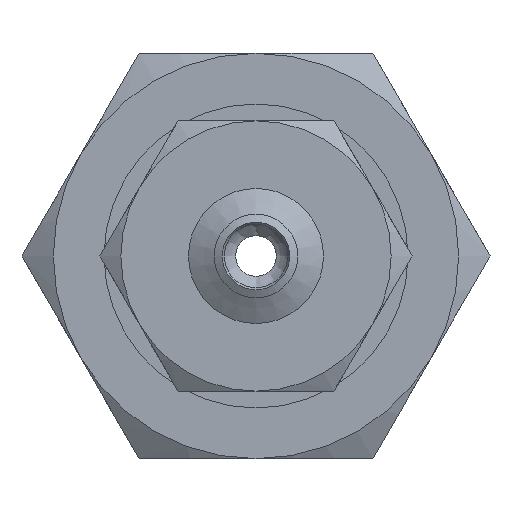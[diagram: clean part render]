
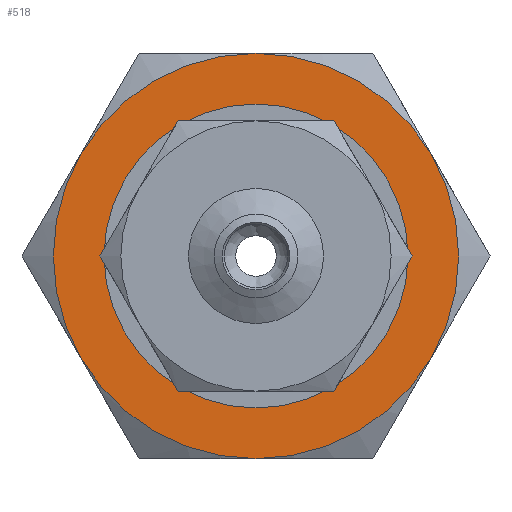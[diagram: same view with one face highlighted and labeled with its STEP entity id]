
A CAD part, front view. The second image highlights one B-rep face of the part: STEP entity #518.
In plain terms, the highlighted planar face has unit normal (0, -1, 0) as drawn and (-1, 0, 0) by its records, which use the part's own axes.
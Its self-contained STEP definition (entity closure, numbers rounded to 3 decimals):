
#518=ADVANCED_FACE('',(#748,#749),#750,.F.);
#748=FACE_BOUND('',#1113,.T.);
#749=FACE_OUTER_BOUND('',#1114,.T.);
#750=PLANE('',#1115);
#1113=EDGE_LOOP('',(#2015));
#1114=EDGE_LOOP('',(#2016,#2017,#2018,#2019,#2020,#2021));
#1115=AXIS2_PLACEMENT_3D('',#2022,#2023,#2024);
#2015=ORIENTED_EDGE('',*,*,#2666,.T.);
#2016=ORIENTED_EDGE('',*,*,#2667,.F.);
#2017=ORIENTED_EDGE('',*,*,#2648,.F.);
#2018=ORIENTED_EDGE('',*,*,#2646,.F.);
#2019=ORIENTED_EDGE('',*,*,#2634,.F.);
#2020=ORIENTED_EDGE('',*,*,#2633,.F.);
#2021=ORIENTED_EDGE('',*,*,#2665,.F.);
#2022=CARTESIAN_POINT('',(0.,0.0,0.0));
#2023=DIRECTION('',(1.0,0.0,0.0));
#2024=DIRECTION('',(0.0,1.0,0.0));
#2633=EDGE_CURVE('',#2960,#2963,#2965,.T.);
#2634=EDGE_CURVE('',#2963,#2966,#2967,.T.);
#2646=EDGE_CURVE('',#2966,#2983,#2986,.T.);
#2648=EDGE_CURVE('',#2983,#2988,#2989,.T.);
#2665=EDGE_CURVE('',#3009,#2960,#3014,.T.);
#2666=EDGE_CURVE('',#3015,#3015,#3016,.T.);
#2667=EDGE_CURVE('',#2988,#3009,#3017,.T.);
#2960=VERTEX_POINT('',#3536);
#2963=VERTEX_POINT('',#3559);
#2965=CIRCLE('',#3571,6.0);
#2966=VERTEX_POINT('',#3572);
#2967=CIRCLE('',#3573,6.0);
#2983=VERTEX_POINT('',#3642);
#2986=CIRCLE('',#3665,6.0);
#2988=VERTEX_POINT('',#3677);
#2989=CIRCLE('',#3678,6.0);
#3009=VERTEX_POINT('',#3759);
#3014=CIRCLE('',#3784,6.0);
#3015=VERTEX_POINT('',#3785);
#3016=CIRCLE('',#3786,4.0);
#3017=CIRCLE('',#3787,6.0);
#3536=CARTESIAN_POINT('',(0.,0.0,6.0));
#3559=CARTESIAN_POINT('',(0.,-5.196,3.0));
#3571=AXIS2_PLACEMENT_3D('',#4427,#4428,#4429);
#3572=CARTESIAN_POINT('',(0.,-5.196,-3.0));
#3573=AXIS2_PLACEMENT_3D('',#4430,#4431,#4432);
#3642=CARTESIAN_POINT('',(0.,0.0,-6.0));
#3665=AXIS2_PLACEMENT_3D('',#4439,#4440,#4441);
#3677=CARTESIAN_POINT('',(0.,5.196,-3.0));
#3678=AXIS2_PLACEMENT_3D('',#4442,#4443,#4444);
#3759=CARTESIAN_POINT('',(0.,5.196,3.0));
#3784=AXIS2_PLACEMENT_3D('',#4467,#4468,#4469);
#3785=CARTESIAN_POINT('',(0.,0.0,-4.0));
#3786=AXIS2_PLACEMENT_3D('',#4470,#4471,#4472);
#3787=AXIS2_PLACEMENT_3D('',#4473,#4474,#4475);
#4427=CARTESIAN_POINT('',(0.,0.0,0.0));
#4428=DIRECTION('',(1.0,0.0,0.0));
#4429=DIRECTION('',(0.0,0.0,-1.0));
#4430=CARTESIAN_POINT('',(0.,0.0,0.0));
#4431=DIRECTION('',(1.0,0.0,0.0));
#4432=DIRECTION('',(0.0,0.0,-1.0));
#4439=CARTESIAN_POINT('',(0.,0.0,0.0));
#4440=DIRECTION('',(1.0,0.0,0.0));
#4441=DIRECTION('',(0.0,0.0,-1.0));
#4442=CARTESIAN_POINT('',(0.,0.0,0.0));
#4443=DIRECTION('',(1.0,0.0,0.0));
#4444=DIRECTION('',(0.0,0.0,-1.0));
#4467=CARTESIAN_POINT('',(0.,0.0,0.0));
#4468=DIRECTION('',(1.0,0.0,0.0));
#4469=DIRECTION('',(0.0,0.0,-1.0));
#4470=CARTESIAN_POINT('',(0.,0.0,0.0));
#4471=DIRECTION('',(1.0,0.0,0.0));
#4472=DIRECTION('',(0.0,0.0,-1.0));
#4473=CARTESIAN_POINT('',(0.,0.0,0.0));
#4474=DIRECTION('',(1.0,0.0,0.0));
#4475=DIRECTION('',(0.0,0.0,-1.0));
